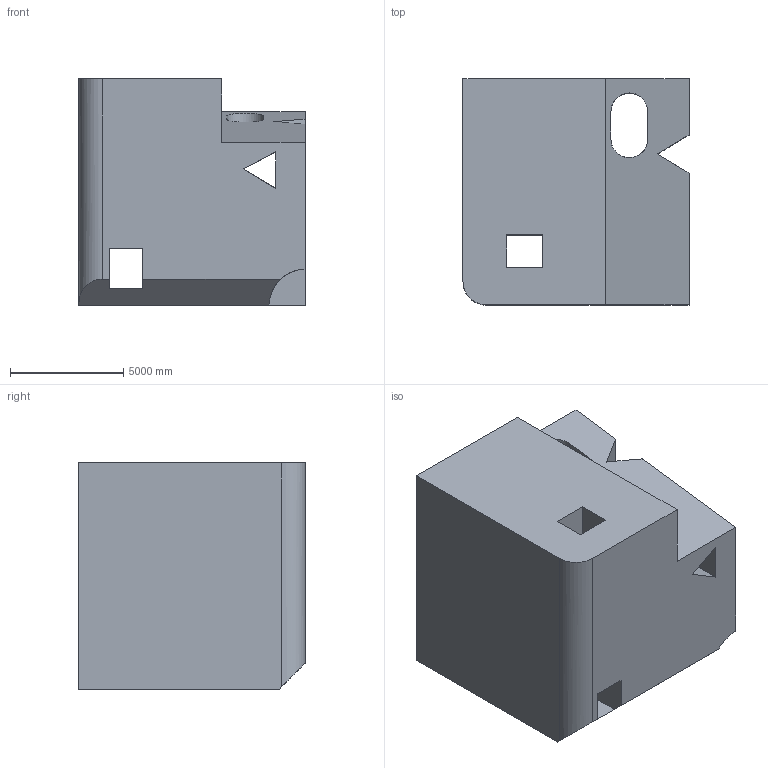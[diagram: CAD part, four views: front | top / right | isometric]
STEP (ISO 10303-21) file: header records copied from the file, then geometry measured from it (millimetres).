
FILE_DESCRIPTION (( 'STEP AP203' ), '1' );
FILE_NAME ('176.STEP', '2022-08-31T12:11:08', ( 'user' ), ( '' ), 'SwSTEP 2.0', 'SolidWorks 2021', '' );
FILE_SCHEMA (( 'CONFIG_CONTROL_DESIGN' ));
Length unit declared in the file: centimetre
Products named in the file (1): 176
Bounding box: 10000 x 10000 x 10000 mm (x, y, z)
Volume: 798414951842.8 mm3; surface area: 773029309.3 mm2
Topology: 1 solids, 1 shells, 34 faces, 117 edges, 78 vertices
Faces by surface type: plane 30, cylinder 4
Entity records: 1351 total; most frequent: CARTESIAN_POINT 260, ORIENTED_EDGE 234, DIRECTION 182, EDGE_CURVE 117, LINE 102, VECTOR 102, VERTEX_POINT 78, EDGE_LOOP 41
